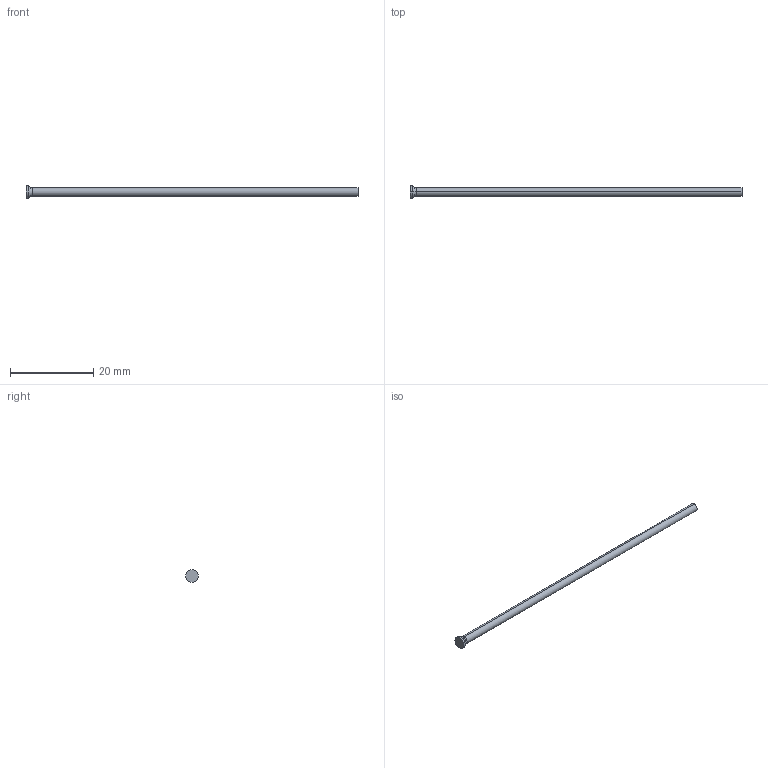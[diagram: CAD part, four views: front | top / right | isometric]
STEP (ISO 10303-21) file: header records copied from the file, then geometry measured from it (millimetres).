
FILE_DESCRIPTION (( 'STEP AP214' ), '1' );
FILE_NAME ('D-2x80.STEP', '2020-06-08T10:35:43', ( 'August' ), ( '' ), 'SwSTEP 2.0', 'SolidWorks 2018', '' );
FILE_SCHEMA (( 'AUTOMOTIVE_DESIGN' ));
Length unit declared in the file: millimetre
Products named in the file (1): D-2x80
Bounding box: 80 x 3 x 3 mm (x, y, z)
Volume: 254.9 mm3; surface area: 516.8 mm2
Topology: 1 solids, 1 shells, 10 faces, 18 edges, 10 vertices
Faces by surface type: cylinder 4, torus 2, cone 2, plane 2
Entity records: 280 total; most frequent: DIRECTION 52, CARTESIAN_POINT 39, ORIENTED_EDGE 36, AXIS2_PLACEMENT_3D 23, EDGE_CURVE 18, CIRCLE 12, FACE_OUTER_BOUND 10, ADVANCED_FACE 10
